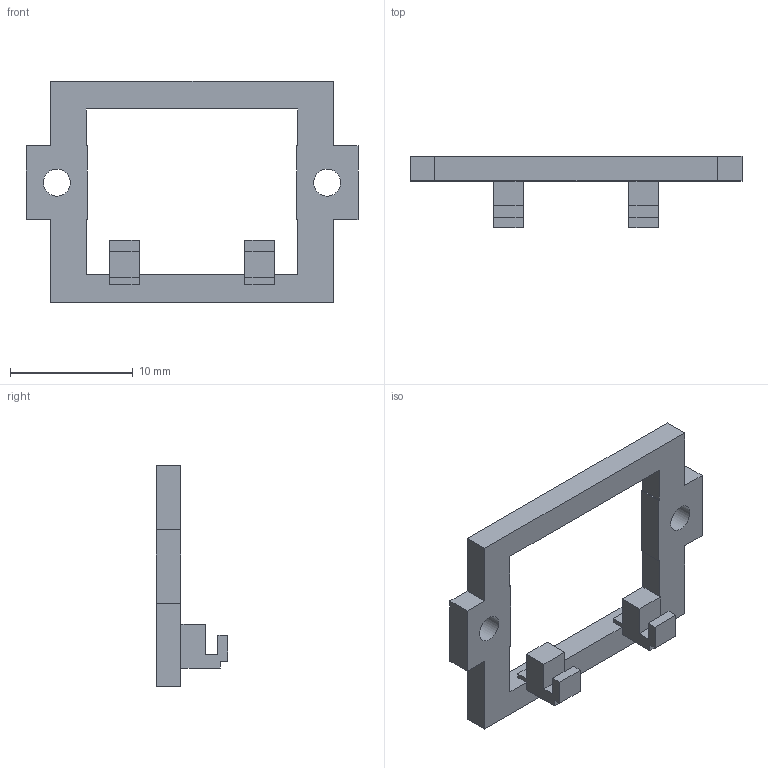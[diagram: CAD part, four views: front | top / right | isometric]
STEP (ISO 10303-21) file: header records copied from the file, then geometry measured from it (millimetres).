
FILE_DESCRIPTION(('Open CASCADE Model'),'2;1');
FILE_NAME('MIC_EDGE_CARRIER','2026-09-06T11:49:22',('Author'),( 'Open CASCADE'),'Open CASCADE STEP processor 7.8','build123d', 'Unknown');
FILE_SCHEMA(('AUTOMOTIVE_DESIGN { 1 0 10303 214 1 1 1 1 }'));
Length unit declared in the file: millimetre
Products named in the file (2): =>[0:1:1:2]; MIC_EDGE_CARRIER
Assembly tree (1 placements, depth 2):
  =>[0:1:1:2]
    MIC_EDGE_CARRIER
Bounding box: 27 x 5.8 x 18 mm (x, y, z)
Volume: 448.5 mm3; surface area: 849.8 mm2
Topology: 1 solids, 1 shells, 56 faces, 162 edges, 108 vertices
Faces by surface type: plane 54, cylinder 2
Full cylindrical faces by diameter (mm): 2.2 x2
Entity records: 3968 total; most frequent: CARTESIAN_POINT 676, DIRECTION 602, LINE 478, VECTOR 478, ORIENTED_EDGE 324, PCURVE 324, DEFINITIONAL_REPRESENTATION 324, EDGE_CURVE 162
